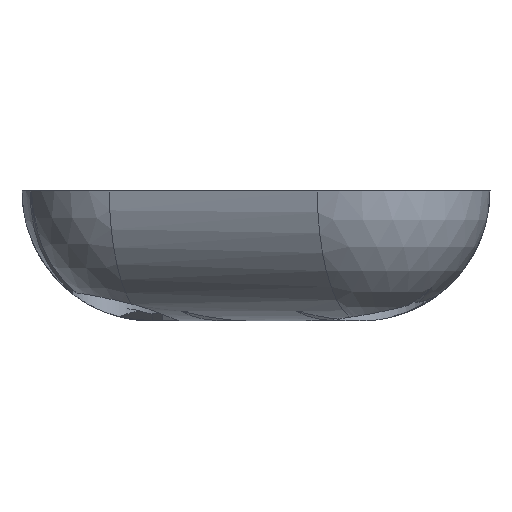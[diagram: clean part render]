
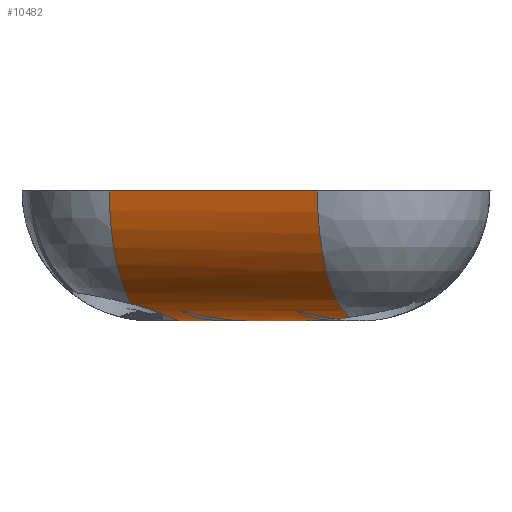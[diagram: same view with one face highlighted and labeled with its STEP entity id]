
A CAD part, front view. The second image highlights one B-rep face of the part: STEP entity #10482.
In plain terms, the highlighted cylindrical face has radius 20 mm (diameter 40 mm), a partial arc.
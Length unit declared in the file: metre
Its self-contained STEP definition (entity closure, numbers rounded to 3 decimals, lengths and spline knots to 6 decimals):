
#609=ELLIPSE('',#11230,0.035632,0.02);
#610=ELLIPSE('',#11231,0.034801,0.02);
#611=ELLIPSE('',#11232,0.036229,0.02);
#612=ELLIPSE('',#11233,0.035632,0.02);
#613=ELLIPSE('',#11234,0.154407,0.02);
#614=ELLIPSE('',#11235,0.034801,0.02);
#615=ELLIPSE('',#11236,0.036229,0.02);
#674=CIRCLE('',#11136,0.02);
#707=CIRCLE('',#11223,0.02);
#812=LINE('',#14810,#1528);
#934=LINE('',#15043,#1650);
#939=LINE('',#15056,#1655);
#1528=VECTOR('',#11847,1.);
#1650=VECTOR('',#12007,1.);
#1655=VECTOR('',#12018,1.);
#2751=ORIENTED_EDGE('',*,*,#5966,.T.);
#2752=ORIENTED_EDGE('',*,*,#5967,.F.);
#2753=ORIENTED_EDGE('',*,*,#5952,.F.);
#2754=ORIENTED_EDGE('',*,*,#5783,.F.);
#2755=ORIENTED_EDGE('',*,*,#5588,.T.);
#2756=ORIENTED_EDGE('',*,*,#5968,.F.);
#2757=ORIENTED_EDGE('',*,*,#5921,.T.);
#2758=ORIENTED_EDGE('',*,*,#5969,.T.);
#2759=ORIENTED_EDGE('',*,*,#5970,.T.);
#2760=ORIENTED_EDGE('',*,*,#5971,.T.);
#2761=ORIENTED_EDGE('',*,*,#5915,.T.);
#2762=ORIENTED_EDGE('',*,*,#5972,.T.);
#2763=ORIENTED_EDGE('',*,*,#5973,.T.);
#2764=ORIENTED_EDGE('',*,*,#5974,.T.);
#5588=EDGE_CURVE('',#7230,#7229,#674,.T.);
#5783=EDGE_CURVE('',#7230,#7413,#812,.T.);
#5915=EDGE_CURVE('',#7503,#7504,#934,.F.);
#5921=EDGE_CURVE('',#7510,#7509,#939,.F.);
#5952=EDGE_CURVE('',#7413,#7538,#707,.T.);
#5966=EDGE_CURVE('',#7544,#7545,#609,.F.);
#5967=EDGE_CURVE('',#7538,#7545,#8299,.T.);
#5968=EDGE_CURVE('',#7510,#7229,#8300,.T.);
#5969=EDGE_CURVE('',#7509,#7546,#610,.F.);
#5970=EDGE_CURVE('',#7546,#7547,#611,.F.);
#5971=EDGE_CURVE('',#7547,#7503,#612,.F.);
#5972=EDGE_CURVE('',#7504,#7548,#613,.F.);
#5973=EDGE_CURVE('',#7548,#7549,#614,.F.);
#5974=EDGE_CURVE('',#7549,#7544,#615,.F.);
#7229=VERTEX_POINT('',#14026);
#7230=VERTEX_POINT('',#14028);
#7413=VERTEX_POINT('',#14811);
#7503=VERTEX_POINT('',#15040);
#7504=VERTEX_POINT('',#15042);
#7509=VERTEX_POINT('',#15055);
#7510=VERTEX_POINT('',#15057);
#7538=VERTEX_POINT('',#15131);
#7544=VERTEX_POINT('',#15211);
#7545=VERTEX_POINT('',#15212);
#7546=VERTEX_POINT('',#15224);
#7547=VERTEX_POINT('',#15226);
#7548=VERTEX_POINT('',#15229);
#7549=VERTEX_POINT('',#15231);
#8299=B_SPLINE_CURVE_WITH_KNOTS('',3,(#15213,#15214,#15215,#15216),
 .UNSPECIFIED.,.F.,.F.,(4,4),(0.013018,0.015858),
 .UNSPECIFIED.);
#8300=B_SPLINE_CURVE_WITH_KNOTS('',3,(#15217,#15218,#15219,#15220,#15221,
#15222),.UNSPECIFIED.,.F.,.F.,(4,1,1,4),(0.006141,0.009192,
0.012243,0.018345),.UNSPECIFIED.);
#8945=EDGE_LOOP('',(#2751,#2752,#2753,#2754,#2755,#2756,#2757,#2758,#2759,
#2760,#2761,#2762,#2763,#2764));
#9670=FACE_BOUND('',#8945,.T.);
#10364=CYLINDRICAL_SURFACE('',#11229,0.02);
#10482=ADVANCED_FACE('',(#9670),#10364,.T.);
#11136=AXIS2_PLACEMENT_3D('',#14027,#11682,#11683);
#11223=AXIS2_PLACEMENT_3D('',#15130,#12064,#12065);
#11229=AXIS2_PLACEMENT_3D('',#15209,#12076,#12077);
#11230=AXIS2_PLACEMENT_3D('',#15210,#12078,#12079);
#11231=AXIS2_PLACEMENT_3D('',#15223,#12080,#12081);
#11232=AXIS2_PLACEMENT_3D('',#15225,#12082,#12083);
#11233=AXIS2_PLACEMENT_3D('',#15227,#12084,#12085);
#11234=AXIS2_PLACEMENT_3D('',#15228,#12086,#12087);
#11235=AXIS2_PLACEMENT_3D('',#15230,#12088,#12089);
#11236=AXIS2_PLACEMENT_3D('',#15232,#12090,#12091);
#11682=DIRECTION('',(0.945,-0.328,0.));
#11683=DIRECTION('',(0.328,0.945,0.));
#11847=DIRECTION('',(0.945,-0.328,0.));
#12007=DIRECTION('',(-0.945,0.328,0.));
#12018=DIRECTION('',(-0.945,0.328,0.));
#12064=DIRECTION('',(0.945,-0.328,0.));
#12065=DIRECTION('',(0.328,0.945,0.));
#12076=DIRECTION('',(0.945,-0.328,0.));
#12077=DIRECTION('',(-0.328,-0.945,0.));
#12078=DIRECTION('',(-0.366,0.658,-0.658));
#12079=DIRECTION('',(0.893,0.05,-0.446));
#12080=DIRECTION('',(0.374,-0.674,0.637));
#12081=DIRECTION('',(0.891,0.072,-0.447));
#12082=DIRECTION('',(0.36,-0.647,-0.672));
#12083=DIRECTION('',(0.895,0.035,0.445));
#12084=DIRECTION('',(-0.366,0.658,-0.658));
#12085=DIRECTION('',(0.893,0.05,-0.446));
#12086=DIRECTION('',(0.366,0.658,-0.658));
#12087=DIRECTION('',(0.905,-0.417,0.086));
#12088=DIRECTION('',(0.374,-0.674,0.637));
#12089=DIRECTION('',(0.891,0.072,-0.447));
#12090=DIRECTION('',(0.36,-0.647,-0.672));
#12091=DIRECTION('',(0.895,0.035,0.445));
#14026=CARTESIAN_POINT('',(-0.142259,-0.09797,-0.793357));
#14027=CARTESIAN_POINT('',(-0.139,-0.088582,-0.776));
#14028=CARTESIAN_POINT('',(-0.14556,-0.107476,-0.776));
#14810=CARTESIAN_POINT('',(-0.123,-0.115309,-0.776));
#14811=CARTESIAN_POINT('',(-0.11356,-0.118587,-0.776));
#15040=CARTESIAN_POINT('',(-0.123918,-0.093819,-0.796));
#15042=CARTESIAN_POINT('',(-0.119022,-0.095519,-0.796));
#15043=CARTESIAN_POINT('',(-0.107,-0.099693,-0.796));
#15055=CARTESIAN_POINT('',(-0.127181,-0.092686,-0.796));
#15056=CARTESIAN_POINT('',(-0.107,-0.099693,-0.796));
#15057=CARTESIAN_POINT('',(-0.134756,-0.090056,-0.796));
#15130=CARTESIAN_POINT('',(-0.107,-0.099693,-0.776));
#15131=CARTESIAN_POINT('',(-0.108571,-0.104218,-0.795418));
#15209=CARTESIAN_POINT('',(-0.11644,-0.096416,-0.776));
#15210=CARTESIAN_POINT('',(-0.128349,-0.092281,-0.776));
#15211=CARTESIAN_POINT('',(-0.116767,-0.104346,-0.7945));
#15212=CARTESIAN_POINT('',(-0.110295,-0.101986,-0.795735));
#15213=CARTESIAN_POINT('',(-0.108571,-0.104218,-0.795418));
#15214=CARTESIAN_POINT('',(-0.109269,-0.103579,-0.79551));
#15215=CARTESIAN_POINT('',(-0.109855,-0.102821,-0.795629));
#15216=CARTESIAN_POINT('',(-0.110295,-0.101986,-0.795735));
#15217=CARTESIAN_POINT('',(-0.134756,-0.090056,-0.796));
#15218=CARTESIAN_POINT('',(-0.134793,-0.091077,-0.796));
#15219=CARTESIAN_POINT('',(-0.135256,-0.093105,-0.795849));
#15220=CARTESIAN_POINT('',(-0.137524,-0.096468,-0.794925));
#15221=CARTESIAN_POINT('',(-0.14029,-0.097792,-0.793823));
#15222=CARTESIAN_POINT('',(-0.142259,-0.09797,-0.793357));
#15223=CARTESIAN_POINT('',(-0.148122,-0.085415,-0.776));
#15224=CARTESIAN_POINT('',(-0.128997,-0.093642,-0.795944));
#15225=CARTESIAN_POINT('',(-0.104304,-0.10063,-0.776));
#15226=CARTESIAN_POINT('',(-0.13449,-0.098193,-0.7945));
#15227=CARTESIAN_POINT('',(-0.146072,-0.086127,-0.776));
#15228=CARTESIAN_POINT('',(-0.023022,-0.128852,-0.776));
#15229=CARTESIAN_POINT('',(-0.111249,-0.099783,-0.795945));
#15230=CARTESIAN_POINT('',(-0.130399,-0.091569,-0.776));
#15231=CARTESIAN_POINT('',(-0.111274,-0.099796,-0.795944));
#15232=CARTESIAN_POINT('',(-0.086581,-0.106784,-0.776));
